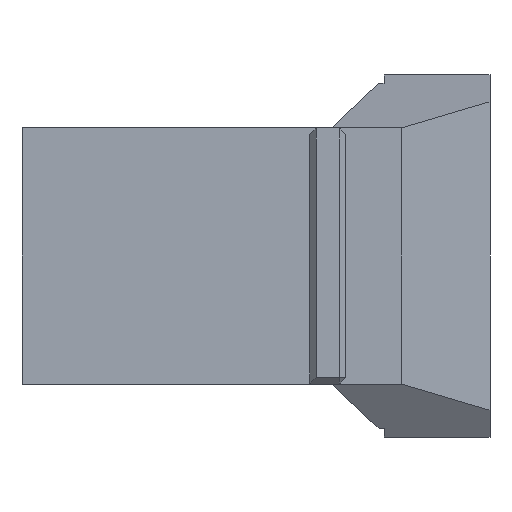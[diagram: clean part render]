
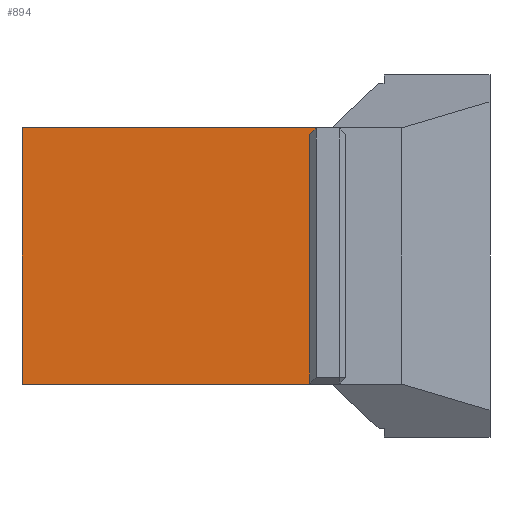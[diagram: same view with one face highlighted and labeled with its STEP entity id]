
A CAD part, front view. The second image highlights one B-rep face of the part: STEP entity #894.
In plain terms, the highlighted planar face has unit normal (0, -1, 0).
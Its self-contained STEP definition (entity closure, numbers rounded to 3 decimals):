
#4 = ORIENTED_EDGE ( 'NONE', *, *, #639, .F. ) ;
#23 = DIRECTION ( 'NONE',  ( 0., 0., -1. ) ) ;
#46 = LINE ( 'NONE', #109, #527 ) ;
#59 = DIRECTION ( 'NONE',  ( 0.707, 0., 0.707 ) ) ;
#68 = CARTESIAN_POINT ( 'NONE',  ( 8.439, 0., 6.82 ) ) ;
#109 = CARTESIAN_POINT ( 'NONE',  ( 8.439, 0., 7.17 ) ) ;
#142 = EDGE_LOOP ( 'NONE', ( #196, #4, #602, #791, #253 ) ) ;
#154 = EDGE_CURVE ( 'NONE', #683, #787, #303, .T. ) ;
#196 = ORIENTED_EDGE ( 'NONE', *, *, #661, .T. ) ;
#202 = VECTOR ( 'NONE', #852, 1000. ) ;
#241 = VERTEX_POINT ( 'NONE', #774 ) ;
#253 = ORIENTED_EDGE ( 'NONE', *, *, #601, .F. ) ;
#263 = VECTOR ( 'NONE', #665, 1000. ) ;
#302 = PLANE ( 'NONE',  #310 ) ;
#303 = LINE ( 'NONE', #585, #674 ) ;
#310 = AXIS2_PLACEMENT_3D ( 'NONE', #640, #717, #23 ) ;
#363 = FACE_OUTER_BOUND ( 'NONE', #142, .T. ) ;
#391 = DIRECTION ( 'NONE',  ( 0., 0., -1. ) ) ;
#416 = LINE ( 'NONE', #782, #847 ) ;
#439 = VERTEX_POINT ( 'NONE', #721 ) ;
#497 = LINE ( 'NONE', #842, #202 ) ;
#527 = VECTOR ( 'NONE', #391, 1000. ) ;
#534 = EDGE_CURVE ( 'NONE', #439, #683, #615, .T. ) ;
#553 = CARTESIAN_POINT ( 'NONE',  ( -7.861, 0., 7.17 ) ) ;
#585 = CARTESIAN_POINT ( 'NONE',  ( -7.861, 0., 7.17 ) ) ;
#601 = EDGE_CURVE ( 'NONE', #677, #439, #46, .T. ) ;
#602 = ORIENTED_EDGE ( 'NONE', *, *, #154, .F. ) ;
#615 = LINE ( 'NONE', #828, #263 ) ;
#639 = EDGE_CURVE ( 'NONE', #787, #241, #497, .T. ) ;
#640 = CARTESIAN_POINT ( 'NONE',  ( 0., 0., 0. ) ) ;
#661 = EDGE_CURVE ( 'NONE', #677, #241, #416, .T. ) ;
#665 = DIRECTION ( 'NONE',  ( -1., 0., 0. ) ) ;
#674 = VECTOR ( 'NONE', #744, 1000. ) ;
#677 = VERTEX_POINT ( 'NONE', #68 ) ;
#683 = VERTEX_POINT ( 'NONE', #765 ) ;
#717 = DIRECTION ( 'NONE',  ( 0., -1., 0. ) ) ;
#721 = CARTESIAN_POINT ( 'NONE',  ( 8.439, 0., -7.33 ) ) ;
#744 = DIRECTION ( 'NONE',  ( 0., 0., 1. ) ) ;
#765 = CARTESIAN_POINT ( 'NONE',  ( -7.861, 0., -7.33 ) ) ;
#774 = CARTESIAN_POINT ( 'NONE',  ( 8.789, 0., 7.17 ) ) ;
#782 = CARTESIAN_POINT ( 'NONE',  ( 8.439, 0., 6.82 ) ) ;
#787 = VERTEX_POINT ( 'NONE', #553 ) ;
#791 = ORIENTED_EDGE ( 'NONE', *, *, #534, .F. ) ;
#828 = CARTESIAN_POINT ( 'NONE',  ( -7.861, 0., -7.33 ) ) ;
#842 = CARTESIAN_POINT ( 'NONE',  ( 8.439, 0., 7.17 ) ) ;
#847 = VECTOR ( 'NONE', #59, 1000. ) ;
#852 = DIRECTION ( 'NONE',  ( 1., 0., 0. ) ) ;
#894 = ADVANCED_FACE ( 'NONE', ( #363 ), #302, .T. ) ;
